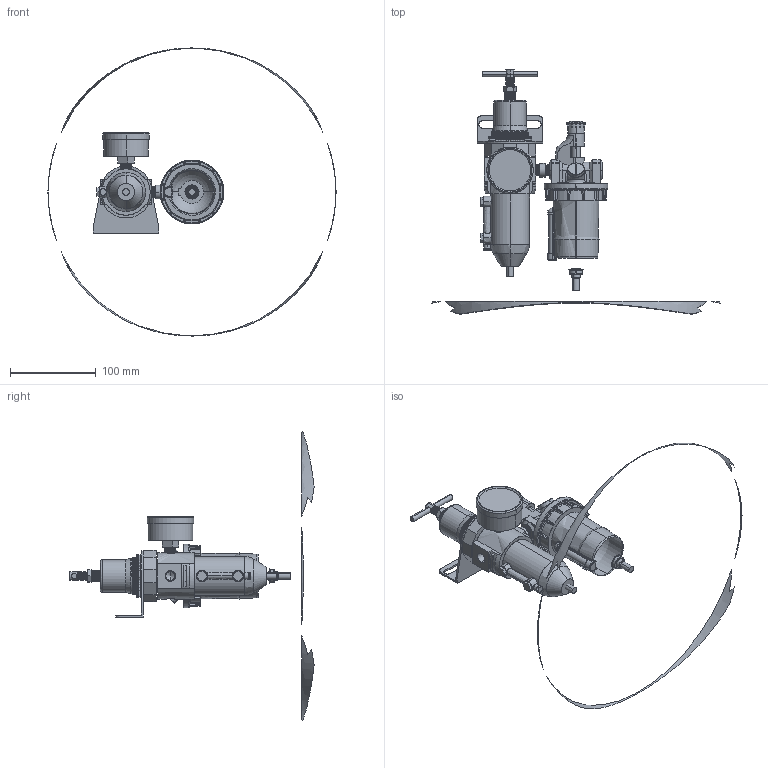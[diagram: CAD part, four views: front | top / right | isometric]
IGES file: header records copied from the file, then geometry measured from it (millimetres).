
Start section: SolidWorks IGES file using analytic representation for surfaces
Global section: file name: D:\Custom\3D繪製\FRL\BL系列\U668W-02#YB#.IGS; native system: SolidWorks 2014; preprocessor: SolidWorks 2014; author: Chieh_Lu; date: 160115.011438; units: millimetre
Bounding box: 335.27 x 284.25 x 335.15 mm (x, y, z)
Surface area: 127989 mm2 (no closed solid volume)
Topology: 0 solids, 0 shells, 1239 faces, 15367 edges, 15353 vertices
Faces by surface type: bspline 766, revolution 473
